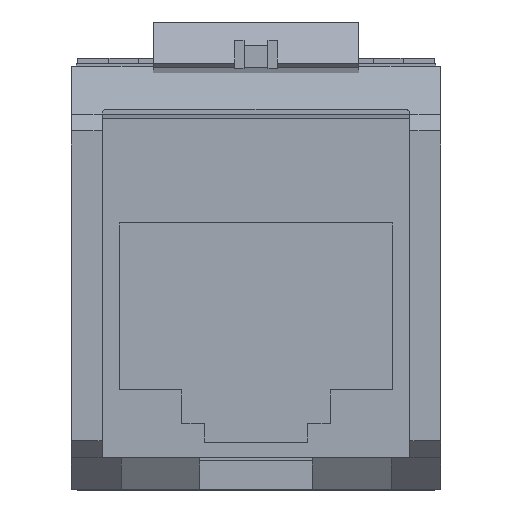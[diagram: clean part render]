
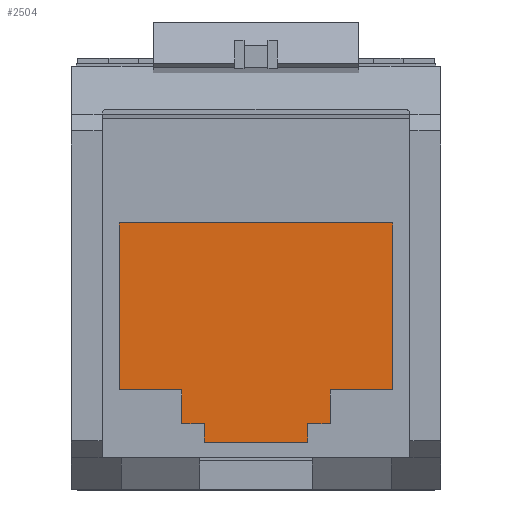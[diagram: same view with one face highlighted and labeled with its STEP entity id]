
A CAD part, left-side view. The second image highlights one B-rep face of the part: STEP entity #2504.
In plain terms, the highlighted free-form (B-spline) face has degree [1, 1] with [2, 2] control points.
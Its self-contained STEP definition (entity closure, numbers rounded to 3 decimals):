
#2012=CARTESIAN_POINT('',(10.,-6.458,11.1));
#2013=VERTEX_POINT('',#2012);
#2023=CARTESIAN_POINT('',(10.,6.458,11.1));
#2024=VERTEX_POINT('',#2023);
#2025=CARTESIAN_POINT('',(10.,6.458,11.1));
#2026=CARTESIAN_POINT('',(10.,3.875,11.1));
#2027=CARTESIAN_POINT('',(10.,1.292,11.1));
#2028=CARTESIAN_POINT('',(10.,-1.292,11.1));
#2029=CARTESIAN_POINT('',(10.,-3.875,11.1));
#2030=CARTESIAN_POINT('',(10.,-6.458,11.1));
#2031=B_SPLINE_CURVE_WITH_KNOTS('',5,(#2025,#2026,#2027,#2028,#2029,#2030),.UNSPECIFIED.,.F.,.U.,(6,6),(0.,12.915),.UNSPECIFIED.);
#2032=EDGE_CURVE('',#2024,#2013,#2031,.T.);
#2063=CARTESIAN_POINT('',(10.,6.458,3.21));
#2064=VERTEX_POINT('',#2063);
#2065=CARTESIAN_POINT('',(10.,6.458,3.21));
#2066=CARTESIAN_POINT('',(10.,6.458,4.788));
#2067=CARTESIAN_POINT('',(10.,6.458,6.366));
#2068=CARTESIAN_POINT('',(10.,6.458,7.944));
#2069=CARTESIAN_POINT('',(10.,6.458,9.522));
#2070=CARTESIAN_POINT('',(10.,6.458,11.1));
#2071=B_SPLINE_CURVE_WITH_KNOTS('',5,(#2065,#2066,#2067,#2068,#2069,#2070),.UNSPECIFIED.,.F.,.U.,(6,6),(0.,7.89),.UNSPECIFIED.);
#2072=EDGE_CURVE('',#2064,#2024,#2071,.T.);
#2103=CARTESIAN_POINT('',(10.,3.504,3.21));
#2104=VERTEX_POINT('',#2103);
#2105=CARTESIAN_POINT('',(10.,3.504,3.21));
#2106=CARTESIAN_POINT('',(10.,4.095,3.21));
#2107=CARTESIAN_POINT('',(10.,4.686,3.21));
#2108=CARTESIAN_POINT('',(10.,5.276,3.21));
#2109=CARTESIAN_POINT('',(10.,5.867,3.21));
#2110=CARTESIAN_POINT('',(10.,6.458,3.21));
#2111=B_SPLINE_CURVE_WITH_KNOTS('',5,(#2105,#2106,#2107,#2108,#2109,#2110),.UNSPECIFIED.,.F.,.U.,(6,6),(0.,2.953),.UNSPECIFIED.);
#2112=EDGE_CURVE('',#2104,#2064,#2111,.T.);
#2143=CARTESIAN_POINT('',(10.,3.504,1.623));
#2144=VERTEX_POINT('',#2143);
#2145=CARTESIAN_POINT('',(10.,3.504,1.623));
#2146=CARTESIAN_POINT('',(10.,3.504,1.94));
#2147=CARTESIAN_POINT('',(10.,3.504,2.258));
#2148=CARTESIAN_POINT('',(10.,3.504,2.575));
#2149=CARTESIAN_POINT('',(10.,3.504,2.893));
#2150=CARTESIAN_POINT('',(10.,3.504,3.21));
#2151=B_SPLINE_CURVE_WITH_KNOTS('',5,(#2145,#2146,#2147,#2148,#2149,#2150),.UNSPECIFIED.,.F.,.U.,(6,6),(0.,1.587),.UNSPECIFIED.);
#2152=EDGE_CURVE('',#2144,#2104,#2151,.T.);
#2183=CARTESIAN_POINT('',(10.,2.446,1.623));
#2184=VERTEX_POINT('',#2183);
#2185=CARTESIAN_POINT('',(10.,2.446,1.623));
#2186=CARTESIAN_POINT('',(10.,2.658,1.623));
#2187=CARTESIAN_POINT('',(10.,2.87,1.623));
#2188=CARTESIAN_POINT('',(10.,3.081,1.623));
#2189=CARTESIAN_POINT('',(10.,3.293,1.623));
#2190=CARTESIAN_POINT('',(10.,3.504,1.623));
#2191=B_SPLINE_CURVE_WITH_KNOTS('',5,(#2185,#2186,#2187,#2188,#2189,#2190),.UNSPECIFIED.,.F.,.U.,(6,6),(0.,1.058),.UNSPECIFIED.);
#2192=EDGE_CURVE('',#2184,#2144,#2191,.T.);
#2223=CARTESIAN_POINT('',(10.,2.446,0.741));
#2224=VERTEX_POINT('',#2223);
#2225=CARTESIAN_POINT('',(10.,2.446,0.741));
#2226=CARTESIAN_POINT('',(10.,2.446,0.918));
#2227=CARTESIAN_POINT('',(10.,2.446,1.094));
#2228=CARTESIAN_POINT('',(10.,2.446,1.27));
#2229=CARTESIAN_POINT('',(10.,2.446,1.447));
#2230=CARTESIAN_POINT('',(10.,2.446,1.623));
#2231=B_SPLINE_CURVE_WITH_KNOTS('',5,(#2225,#2226,#2227,#2228,#2229,#2230),.UNSPECIFIED.,.F.,.U.,(6,6),(0.,0.882),.UNSPECIFIED.);
#2232=EDGE_CURVE('',#2224,#2184,#2231,.T.);
#2263=CARTESIAN_POINT('',(10.,-2.446,0.741));
#2264=VERTEX_POINT('',#2263);
#2265=CARTESIAN_POINT('',(10.,-2.446,0.741));
#2266=CARTESIAN_POINT('',(10.,-1.468,0.741));
#2267=CARTESIAN_POINT('',(10.,-0.489,0.741));
#2268=CARTESIAN_POINT('',(10.,0.489,0.741));
#2269=CARTESIAN_POINT('',(10.,1.468,0.741));
#2270=CARTESIAN_POINT('',(10.,2.446,0.741));
#2271=B_SPLINE_CURVE_WITH_KNOTS('',5,(#2265,#2266,#2267,#2268,#2269,#2270),.UNSPECIFIED.,.F.,.U.,(6,6),(0.,4.893),.UNSPECIFIED.);
#2272=EDGE_CURVE('',#2264,#2224,#2271,.T.);
#2303=CARTESIAN_POINT('',(10.,-2.446,1.623));
#2304=VERTEX_POINT('',#2303);
#2305=CARTESIAN_POINT('',(10.,-2.446,1.623));
#2306=CARTESIAN_POINT('',(10.,-2.446,1.447));
#2307=CARTESIAN_POINT('',(10.,-2.446,1.27));
#2308=CARTESIAN_POINT('',(10.,-2.446,1.094));
#2309=CARTESIAN_POINT('',(10.,-2.446,0.918));
#2310=CARTESIAN_POINT('',(10.,-2.446,0.741));
#2311=B_SPLINE_CURVE_WITH_KNOTS('',5,(#2305,#2306,#2307,#2308,#2309,#2310),.UNSPECIFIED.,.F.,.U.,(6,6),(0.,0.882),.UNSPECIFIED.);
#2312=EDGE_CURVE('',#2304,#2264,#2311,.T.);
#2343=CARTESIAN_POINT('',(10.,-3.504,1.623));
#2344=VERTEX_POINT('',#2343);
#2345=CARTESIAN_POINT('',(10.,-3.504,1.623));
#2346=CARTESIAN_POINT('',(10.,-3.293,1.623));
#2347=CARTESIAN_POINT('',(10.,-3.081,1.623));
#2348=CARTESIAN_POINT('',(10.,-2.87,1.623));
#2349=CARTESIAN_POINT('',(10.,-2.658,1.623));
#2350=CARTESIAN_POINT('',(10.,-2.446,1.623));
#2351=B_SPLINE_CURVE_WITH_KNOTS('',5,(#2345,#2346,#2347,#2348,#2349,#2350),.UNSPECIFIED.,.F.,.U.,(6,6),(0.,1.058),.UNSPECIFIED.);
#2352=EDGE_CURVE('',#2344,#2304,#2351,.T.);
#2383=CARTESIAN_POINT('',(10.,-3.504,3.21));
#2384=VERTEX_POINT('',#2383);
#2385=CARTESIAN_POINT('',(10.,-3.504,3.21));
#2386=CARTESIAN_POINT('',(10.,-3.504,2.893));
#2387=CARTESIAN_POINT('',(10.,-3.504,2.575));
#2388=CARTESIAN_POINT('',(10.,-3.504,2.258));
#2389=CARTESIAN_POINT('',(10.,-3.504,1.94));
#2390=CARTESIAN_POINT('',(10.,-3.504,1.623));
#2391=B_SPLINE_CURVE_WITH_KNOTS('',5,(#2385,#2386,#2387,#2388,#2389,#2390),.UNSPECIFIED.,.F.,.U.,(6,6),(0.,1.587),.UNSPECIFIED.);
#2392=EDGE_CURVE('',#2384,#2344,#2391,.T.);
#2423=CARTESIAN_POINT('',(10.,-6.458,3.21));
#2424=VERTEX_POINT('',#2423);
#2425=CARTESIAN_POINT('',(10.,-6.458,3.21));
#2426=CARTESIAN_POINT('',(10.,-5.867,3.21));
#2427=CARTESIAN_POINT('',(10.,-5.276,3.21));
#2428=CARTESIAN_POINT('',(10.,-4.686,3.21));
#2429=CARTESIAN_POINT('',(10.,-4.095,3.21));
#2430=CARTESIAN_POINT('',(10.,-3.504,3.21));
#2431=B_SPLINE_CURVE_WITH_KNOTS('',5,(#2425,#2426,#2427,#2428,#2429,#2430),.UNSPECIFIED.,.F.,.U.,(6,6),(0.,2.953),.UNSPECIFIED.);
#2432=EDGE_CURVE('',#2424,#2384,#2431,.T.);
#2463=CARTESIAN_POINT('',(10.,-6.458,11.1));
#2464=CARTESIAN_POINT('',(10.,-6.458,9.522));
#2465=CARTESIAN_POINT('',(10.,-6.458,7.944));
#2466=CARTESIAN_POINT('',(10.,-6.458,6.366));
#2467=CARTESIAN_POINT('',(10.,-6.458,4.788));
#2468=CARTESIAN_POINT('',(10.,-6.458,3.21));
#2469=B_SPLINE_CURVE_WITH_KNOTS('',5,(#2463,#2464,#2465,#2466,#2467,#2468),.UNSPECIFIED.,.F.,.U.,(6,6),(0.,7.89),.UNSPECIFIED.);
#2470=EDGE_CURVE('',#2013,#2424,#2469,.T.);
#2485=CARTESIAN_POINT('',(10.,-6.458,11.1));
#2486=CARTESIAN_POINT('',(10.,6.458,11.1));
#2487=CARTESIAN_POINT('',(10.,-6.458,0.741));
#2488=CARTESIAN_POINT('',(10.,6.458,0.741));
#2489=B_SPLINE_SURFACE_WITH_KNOTS('',1,1,((#2485,#2486),(#2487,#2488)),.PLANE_SURF.,.F.,.F.,.U.,(2,2),(2,2),(0.,1.),(0.,1.247),.UNSPECIFIED.);
#2490=ORIENTED_EDGE('',*,*,#2432,.T.);
#2491=ORIENTED_EDGE('',*,*,#2392,.T.);
#2492=ORIENTED_EDGE('',*,*,#2352,.T.);
#2493=ORIENTED_EDGE('',*,*,#2312,.T.);
#2494=ORIENTED_EDGE('',*,*,#2272,.T.);
#2495=ORIENTED_EDGE('',*,*,#2232,.T.);
#2496=ORIENTED_EDGE('',*,*,#2192,.T.);
#2497=ORIENTED_EDGE('',*,*,#2152,.T.);
#2498=ORIENTED_EDGE('',*,*,#2112,.T.);
#2499=ORIENTED_EDGE('',*,*,#2072,.T.);
#2500=ORIENTED_EDGE('',*,*,#2032,.T.);
#2501=ORIENTED_EDGE('',*,*,#2470,.T.);
#2502=EDGE_LOOP('',(#2490,#2491,#2492,#2493,#2494,#2495,#2496,#2497,#2498,#2499,#2500,#2501));
#2503=FACE_OUTER_BOUND('',#2502,.F.);
#2504=ADVANCED_FACE('',(#2503),#2489,.F.);
